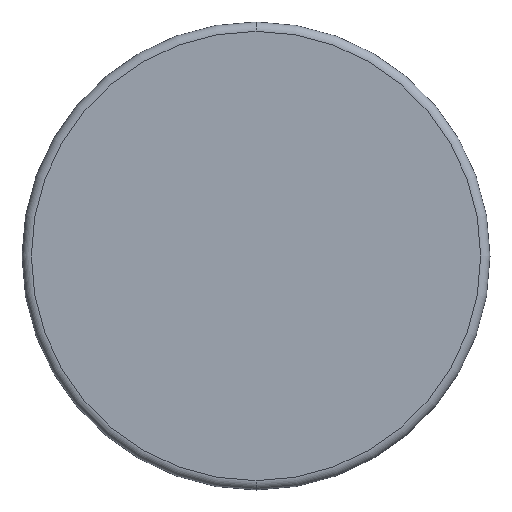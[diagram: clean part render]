
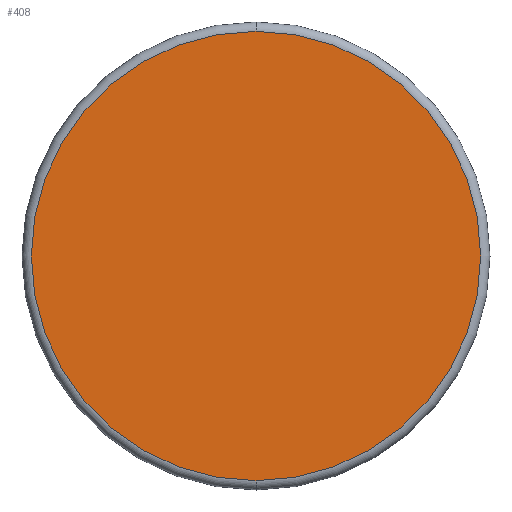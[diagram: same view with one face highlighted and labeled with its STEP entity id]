
A CAD part, front view. The second image highlights one B-rep face of the part: STEP entity #408.
In plain terms, the highlighted planar face has unit normal (0, -1, 0).
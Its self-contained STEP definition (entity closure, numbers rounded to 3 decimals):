
#42 = DIRECTION ( 'NONE',  ( 0., -1., 0. ) ) ;
#67 = FACE_OUTER_BOUND ( 'NONE', #876, .T. ) ;
#79 = PLANE ( 'NONE',  #674 ) ;
#145 = CARTESIAN_POINT ( 'NONE',  ( 0., 0., -24. ) ) ;
#159 = DIRECTION ( 'NONE',  ( 0., 0., -1. ) ) ;
#192 = VERTEX_POINT ( 'NONE', #145 ) ;
#247 = DIRECTION ( 'NONE',  ( 0., 0., 1. ) ) ;
#258 = CARTESIAN_POINT ( 'NONE',  ( 0., 0., 0. ) ) ;
#278 = CARTESIAN_POINT ( 'NONE',  ( 0., 0., 0. ) ) ;
#403 = DIRECTION ( 'NONE',  ( 0., 1., 0. ) ) ;
#408 = ADVANCED_FACE ( 'NONE', ( #67 ), #79, .F. ) ;
#430 = ORIENTED_EDGE ( 'NONE', *, *, #451, .T. ) ;
#432 = AXIS2_PLACEMENT_3D ( 'NONE', #258, #858, #159 ) ;
#451 = EDGE_CURVE ( 'NONE', #192, #907, #781, .T. ) ;
#496 = ORIENTED_EDGE ( 'NONE', *, *, #694, .T. ) ;
#587 = DIRECTION ( 'NONE',  ( 0., 0., -1. ) ) ;
#639 = CARTESIAN_POINT ( 'NONE',  ( 0., 0., 24. ) ) ;
#674 = AXIS2_PLACEMENT_3D ( 'NONE', #721, #403, #247 ) ;
#694 = EDGE_CURVE ( 'NONE', #907, #192, #1006, .T. ) ;
#721 = CARTESIAN_POINT ( 'NONE',  ( 0., 0., 0. ) ) ;
#781 = CIRCLE ( 'NONE', #432, 24. ) ;
#858 = DIRECTION ( 'NONE',  ( 0., -1., 0. ) ) ;
#876 = EDGE_LOOP ( 'NONE', ( #430, #496 ) ) ;
#878 = AXIS2_PLACEMENT_3D ( 'NONE', #278, #42, #587 ) ;
#907 = VERTEX_POINT ( 'NONE', #639 ) ;
#1006 = CIRCLE ( 'NONE', #878, 24. ) ;
